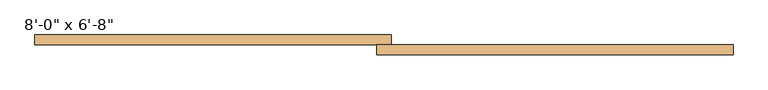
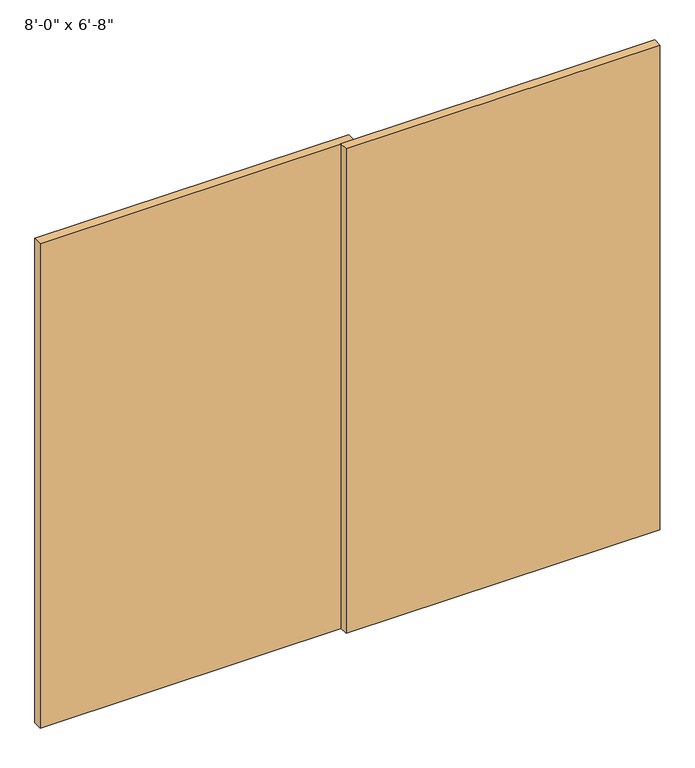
"""IFC4 building model written with IfcOpenShell, lengths in millimetres: door geometry."""

from ifc_helpers import new_model, si_unit, origin, origin_with_axes, place, context, project, spatial, polyline, outline, extrude, source, transform, mapped, element, save


def door_7fdea281(model_context):
    return source(origin(), model_context, "Body", "SweptSolid", [
        extrude(outline(polyline([(1219.2, 18.975), (1219.2, -16.025), (-25.4, -16.025), (-25.4, 18.975), (1219.2, 18.975)])), origin_with_axes(), (0.0, 0.0, 1.0), 2032.0),
        extrude(outline(polyline([(25.4, 53.975), (25.4, 18.975), (-1219.2, 18.975), (-1219.2, 53.975), (25.4, 53.975)])), origin_with_axes(), (0.0, 0.0, 1.0), 2032.0),
    ])


if __name__ == "__main__":
    model = new_model("IFC4")
    model_context = context("Model", 3, world=origin())
    ifc_project = project(units=[si_unit("LENGTHUNIT", "METRE", prefix="MILLI")], contexts=[model_context])
    site = spatial("IfcSite", under=ifc_project)
    building = spatial("IfcBuilding", under=site)
    placement = place(None, origin())
    door_shape = door_7fdea281(model_context)
    element("IfcDoor", 1, ObjectType="Planitar - Double Sliding Door_Flush Panel : 8'-0\" x 6'-8\"", at=placement, inside=building, context=model_context, shape_type="MappedRepresentation", body=[
        mapped(door_shape, transform((0.0, 0.0, 0.0), x_axis=(1.0, 0.0, 0.0), y_axis=(0.0, 1.0, 0.0), z_axis=(0.0, 0.0, 1.0))),
    ])
    save(model, "model.ifc")
